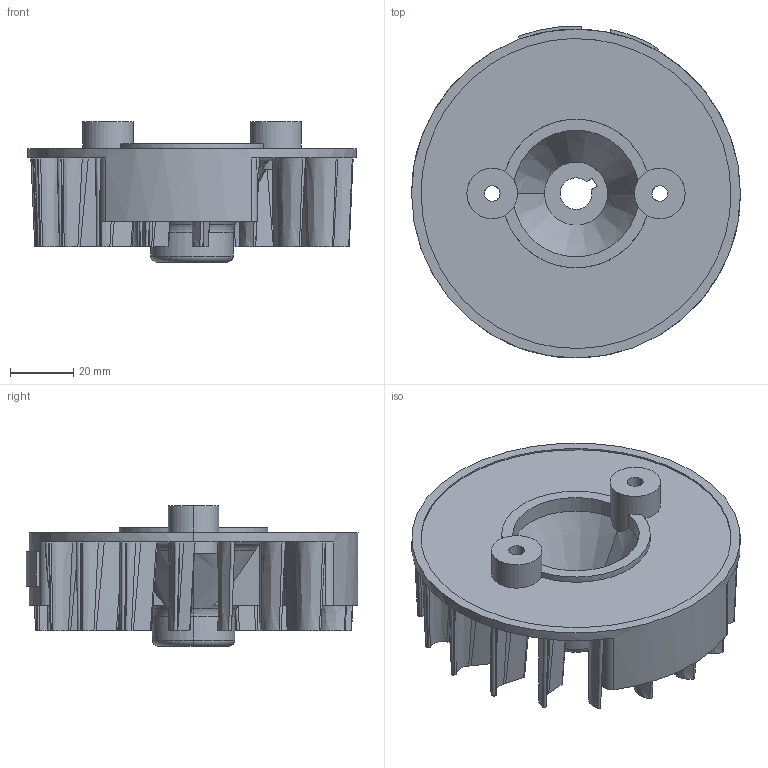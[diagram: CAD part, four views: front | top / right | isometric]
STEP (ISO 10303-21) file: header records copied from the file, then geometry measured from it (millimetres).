
FILE_DESCRIPTION(('CATIA V5 STEP Exchange'),'2;1');
FILE_NAME('C:\Documents and Settings\Gilles\Mes documents\téléchargements\equilibrage_volant_magnetique_DP_CAT\modele catia\ens_volant_tournant.stp','2008-11-21T20:39:24+00:00',('none'),('none'),'CATIA Version 5 Release 15 (IN-10)','CATIA V5 STEP AP203','none');
FILE_SCHEMA(('CONFIG_CONTROL_DESIGN'));
Length unit declared in the file: millimetre
Products named in the file (2): ens_volant_tournant; ensemble_volant
Assembly tree (4 placements, depth 3):
  ens_volant_tournant
    ensemble_volant
      #62
      #16603
    #16956
Bounding box: 104 x 104.97 x 44.5 mm (x, y, z)
Volume: 97216.7 mm3; surface area: 43898.5 mm2
Topology: 3 solids, 3 shells, 356 faces, 999 edges, 664 vertices
Faces by surface type: bspline 220, plane 70, cylinder 54, torus 8, cone 4
Entity records: 16526 total; most frequent: CARTESIAN_POINT 9743, ORIENTED_EDGE 1998, EDGE_CURVE 999, VERTEX_POINT 664, DIRECTION 565, B_SPLINE_CURVE_WITH_KNOTS 426, EDGE_LOOP 377, ADVANCED_FACE 356
